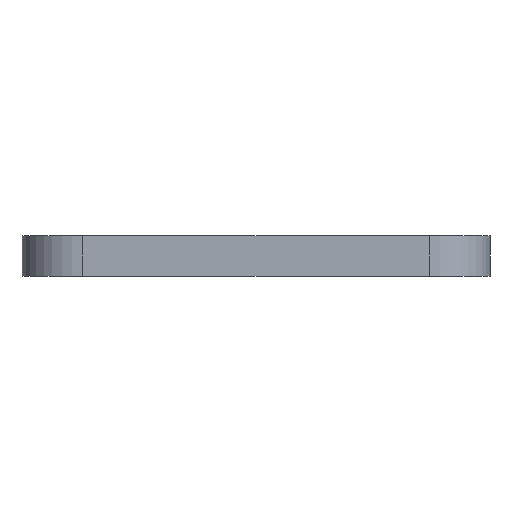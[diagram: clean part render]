
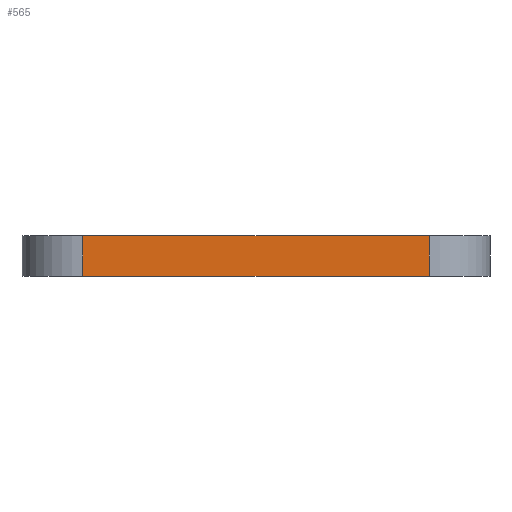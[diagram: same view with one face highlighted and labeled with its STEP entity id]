
A CAD part, front view. The second image highlights one B-rep face of the part: STEP entity #565.
In plain terms, the highlighted planar face has unit normal (0, -1, 0).
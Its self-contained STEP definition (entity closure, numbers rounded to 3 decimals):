
#73 = PLANE('',#74);
#74 = AXIS2_PLACEMENT_3D('',#75,#76,#77);
#75 = CARTESIAN_POINT('',(0.,0.,2.));
#76 = DIRECTION('',(-0.,0.,1.));
#77 = DIRECTION('',(1.,0.,0.));
#123 = PLANE('',#124);
#124 = AXIS2_PLACEMENT_3D('',#125,#126,#127);
#125 = CARTESIAN_POINT('',(0.,0.,0.));
#126 = DIRECTION('',(-0.,0.,1.));
#127 = DIRECTION('',(1.,0.,0.));
#505 = CYLINDRICAL_SURFACE('',#506,3.);
#506 = AXIS2_PLACEMENT_3D('',#507,#508,#509);
#507 = CARTESIAN_POINT('',(-8.6,-8.35,2.));
#508 = DIRECTION('',(-0.,0.,-1.));
#509 = DIRECTION('',(-1.,0.,0.));
#565 = ADVANCED_FACE('',(#566),#580,.F.);
#566 = FACE_BOUND('',#567,.T.);
#567 = EDGE_LOOP('',(#568,#598,#621,#644));
#568 = ORIENTED_EDGE('',*,*,#569,.F.);
#569 = EDGE_CURVE('',#570,#572,#574,.T.);
#570 = VERTEX_POINT('',#571);
#571 = CARTESIAN_POINT('',(-8.6,-11.35,2.));
#572 = VERTEX_POINT('',#573);
#573 = CARTESIAN_POINT('',(8.6,-11.35,2.));
#574 = SURFACE_CURVE('',#575,(#579,#591),.PCURVE_S1.);
#575 = LINE('',#576,#577);
#576 = CARTESIAN_POINT('',(-11.6,-11.35,2.));
#577 = VECTOR('',#578,1.);
#578 = DIRECTION('',(1.,0.,0.));
#579 = PCURVE('',#580,#585);
#580 = PLANE('',#581);
#581 = AXIS2_PLACEMENT_3D('',#582,#583,#584);
#582 = CARTESIAN_POINT('',(-11.6,-11.35,2.));
#583 = DIRECTION('',(0.,1.,0.));
#584 = DIRECTION('',(0.,-0.,1.));
#585 = DEFINITIONAL_REPRESENTATION('',(#586),#590);
#586 = LINE('',#587,#588);
#587 = CARTESIAN_POINT('',(0.,0.));
#588 = VECTOR('',#589,1.);
#589 = DIRECTION('',(0.,1.));
#590 = ( GEOMETRIC_REPRESENTATION_CONTEXT(2) 
PARAMETRIC_REPRESENTATION_CONTEXT() REPRESENTATION_CONTEXT('2D SPACE',''
  ) );
#591 = PCURVE('',#73,#592);
#592 = DEFINITIONAL_REPRESENTATION('',(#593),#597);
#593 = LINE('',#594,#595);
#594 = CARTESIAN_POINT('',(-11.6,-11.35));
#595 = VECTOR('',#596,1.);
#596 = DIRECTION('',(1.,0.));
#597 = ( GEOMETRIC_REPRESENTATION_CONTEXT(2) 
PARAMETRIC_REPRESENTATION_CONTEXT() REPRESENTATION_CONTEXT('2D SPACE',''
  ) );
#598 = ORIENTED_EDGE('',*,*,#599,.T.);
#599 = EDGE_CURVE('',#570,#600,#602,.T.);
#600 = VERTEX_POINT('',#601);
#601 = CARTESIAN_POINT('',(-8.6,-11.35,0.));
#602 = SURFACE_CURVE('',#603,(#607,#614),.PCURVE_S1.);
#603 = LINE('',#604,#605);
#604 = CARTESIAN_POINT('',(-8.6,-11.35,2.));
#605 = VECTOR('',#606,1.);
#606 = DIRECTION('',(-0.,0.,-1.));
#607 = PCURVE('',#580,#608);
#608 = DEFINITIONAL_REPRESENTATION('',(#609),#613);
#609 = LINE('',#610,#611);
#610 = CARTESIAN_POINT('',(0.,3.));
#611 = VECTOR('',#612,1.);
#612 = DIRECTION('',(-1.,0.));
#613 = ( GEOMETRIC_REPRESENTATION_CONTEXT(2) 
PARAMETRIC_REPRESENTATION_CONTEXT() REPRESENTATION_CONTEXT('2D SPACE',''
  ) );
#614 = PCURVE('',#505,#615);
#615 = DEFINITIONAL_REPRESENTATION('',(#616),#620);
#616 = LINE('',#617,#618);
#617 = CARTESIAN_POINT('',(4.712,0.));
#618 = VECTOR('',#619,1.);
#619 = DIRECTION('',(0.,1.));
#620 = ( GEOMETRIC_REPRESENTATION_CONTEXT(2) 
PARAMETRIC_REPRESENTATION_CONTEXT() REPRESENTATION_CONTEXT('2D SPACE',''
  ) );
#621 = ORIENTED_EDGE('',*,*,#622,.T.);
#622 = EDGE_CURVE('',#600,#623,#625,.T.);
#623 = VERTEX_POINT('',#624);
#624 = CARTESIAN_POINT('',(8.6,-11.35,0.));
#625 = SURFACE_CURVE('',#626,(#630,#637),.PCURVE_S1.);
#626 = LINE('',#627,#628);
#627 = CARTESIAN_POINT('',(-11.6,-11.35,0.));
#628 = VECTOR('',#629,1.);
#629 = DIRECTION('',(1.,0.,0.));
#630 = PCURVE('',#580,#631);
#631 = DEFINITIONAL_REPRESENTATION('',(#632),#636);
#632 = LINE('',#633,#634);
#633 = CARTESIAN_POINT('',(-2.,0.));
#634 = VECTOR('',#635,1.);
#635 = DIRECTION('',(0.,1.));
#636 = ( GEOMETRIC_REPRESENTATION_CONTEXT(2) 
PARAMETRIC_REPRESENTATION_CONTEXT() REPRESENTATION_CONTEXT('2D SPACE',''
  ) );
#637 = PCURVE('',#123,#638);
#638 = DEFINITIONAL_REPRESENTATION('',(#639),#643);
#639 = LINE('',#640,#641);
#640 = CARTESIAN_POINT('',(-11.6,-11.35));
#641 = VECTOR('',#642,1.);
#642 = DIRECTION('',(1.,0.));
#643 = ( GEOMETRIC_REPRESENTATION_CONTEXT(2) 
PARAMETRIC_REPRESENTATION_CONTEXT() REPRESENTATION_CONTEXT('2D SPACE',''
  ) );
#644 = ORIENTED_EDGE('',*,*,#645,.T.);
#645 = EDGE_CURVE('',#623,#572,#646,.T.);
#646 = SURFACE_CURVE('',#647,(#651,#658),.PCURVE_S1.);
#647 = LINE('',#648,#649);
#648 = CARTESIAN_POINT('',(8.6,-11.35,2.));
#649 = VECTOR('',#650,1.);
#650 = DIRECTION('',(-0.,-0.,1.));
#651 = PCURVE('',#580,#652);
#652 = DEFINITIONAL_REPRESENTATION('',(#653),#657);
#653 = LINE('',#654,#655);
#654 = CARTESIAN_POINT('',(0.,20.2));
#655 = VECTOR('',#656,1.);
#656 = DIRECTION('',(1.,-0.));
#657 = ( GEOMETRIC_REPRESENTATION_CONTEXT(2) 
PARAMETRIC_REPRESENTATION_CONTEXT() REPRESENTATION_CONTEXT('2D SPACE',''
  ) );
#658 = PCURVE('',#659,#664);
#659 = CYLINDRICAL_SURFACE('',#660,3.);
#660 = AXIS2_PLACEMENT_3D('',#661,#662,#663);
#661 = CARTESIAN_POINT('',(8.6,-8.35,2.));
#662 = DIRECTION('',(0.,0.,-1.));
#663 = DIRECTION('',(-1.,0.,0.));
#664 = DEFINITIONAL_REPRESENTATION('',(#665),#669);
#665 = LINE('',#666,#667);
#666 = CARTESIAN_POINT('',(4.712,0.));
#667 = VECTOR('',#668,1.);
#668 = DIRECTION('',(0.,-1.));
#669 = ( GEOMETRIC_REPRESENTATION_CONTEXT(2) 
PARAMETRIC_REPRESENTATION_CONTEXT() REPRESENTATION_CONTEXT('2D SPACE',''
  ) );
